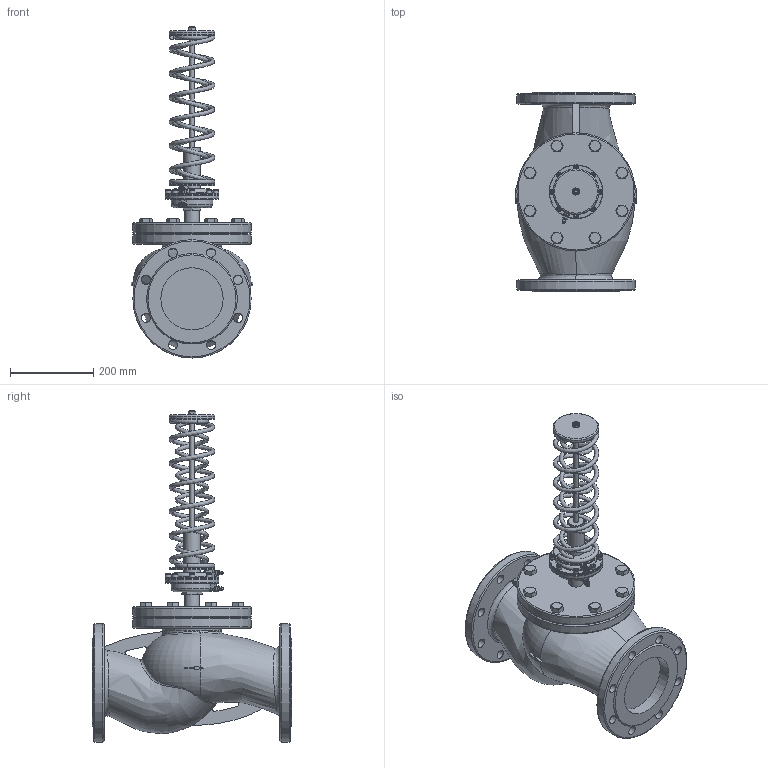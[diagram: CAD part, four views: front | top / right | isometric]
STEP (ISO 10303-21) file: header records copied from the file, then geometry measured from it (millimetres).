
FILE_DESCRIPTION(('STEP AP203'), '1');
FILE_NAME('Ðåãóëÿòîðû ïåðåïàäà äàâëåíèÿ ÐÄÒ Äó150', '', ('UNSPECIFIED'), ('UNSPECIFIED'), 'ASCON STEP Converter 1.6', 'ASCON Math Kernel', '');
FILE_SCHEMA(('CONFIG_CONTROL_DESIGN'));
Length unit declared in the file: millimetre
Products named in the file (1): -11
Bounding box: 292.5 x 480 x 800 mm (x, y, z)
Volume: 21407017 mm3; surface area: 1130245.3 mm2
Topology: 27 solids, 27 shells, 593 faces, 1313 edges, 795 vertices
Faces by surface type: plane 292, cylinder 119, cone 94, torus 46, bspline 36, sphere 4, revolution 1, extrusion 1
Full cylindrical faces by diameter (mm): 1.7 x2, 2.7 x4, 6 x18, 6.5 x4, 8 x10, 8.5 x4, 8.917 x1, 10 x4, 13 x8, 20 x8, 22 x24, 35 x1, 40 x2, 110 x2, 130 x2, 150 x2, 285 x4
Entity records: 49830 total; most frequent: CARTESIAN_POINT 32964, DIRECTION 2361, ORIENTED_EDGE 2164, EDGE_CURVE 1082, AXIS2_PLACEMENT_3D 1007, EDGE_LOOP 912, VERTEX_POINT 783, COLOUR_RGB 620
